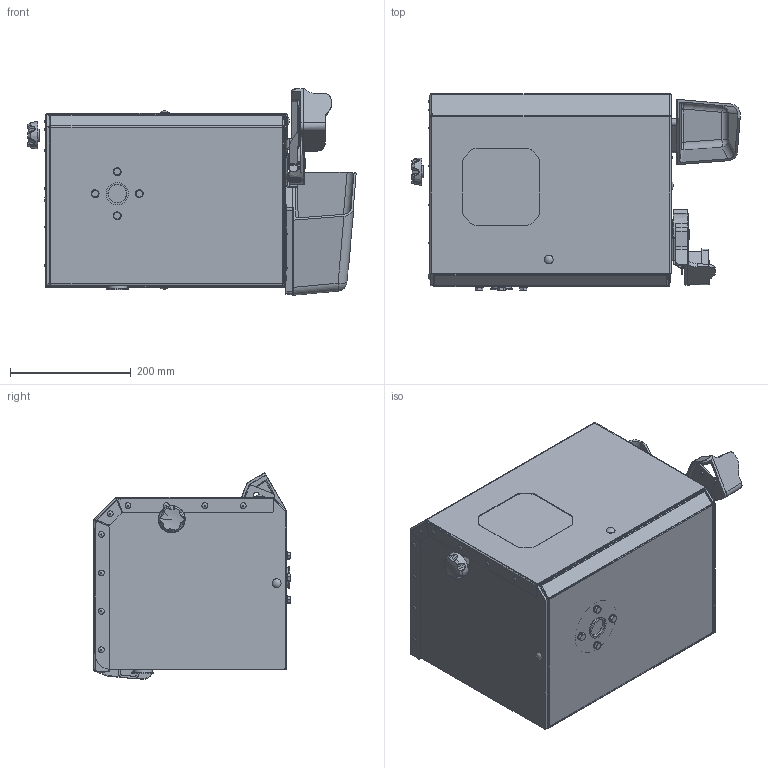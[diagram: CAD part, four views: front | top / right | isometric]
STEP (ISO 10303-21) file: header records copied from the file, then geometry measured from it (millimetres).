
FILE_DESCRIPTION(/* description */ (''),/* implementation_level */ '2;1');
FILE_NAME(/* name */ 'QM40-RD_WEB.stp',/* time_stamp */ '2023-09-19T14:18:43-05:00',/* author */ ('gdanhar'),/* organization */ (''),/* preprocessor_version */ 'ST-DEVELOPER v19.2',/* originating_system */ 'Autodesk Inventor 2024',/* authorisation */ '');
FILE_SCHEMA (('AUTOMOTIVE_DESIGN { 1 0 10303 214 3 1 1 }'));
Products named in the file (1): QM40-RD_WEB
Bounding box: 542.68 x 324.91 x 341.43 mm (x, y, z)
Volume: 36073702.9 mm3; surface area: 1086299.1 mm2
Topology: 3 solids, 5 shells, 1166 faces, 2992 edges, 1870 vertices
Faces by surface type: plane 508, cylinder 336, bspline 157, cone 142, torus 14, sphere 9
Full cylindrical faces by diameter (mm): 1.854 x4, 4.973 x7, 6.35 x9, 6.909 x3, 7.784 x1, 7.806 x2, 9.144 x1, 9.487 x1, 9.525 x23, 9.906 x1, 11.125 x7, 11.43 x1, 12.706 x1, 12.827 x7, 14.554 x5, 17.475 x1, 22.86 x1, 36.576 x2, 95.25 x1
Entity records: 48991 total; most frequent: CARTESIAN_POINT 20651, ORIENTED_EDGE 6022, DIRECTION 5123, EDGE_CURVE 3011, AXIS2_PLACEMENT_3D 1891, VERTEX_POINT 1877, LINE 1341, VECTOR 1341
